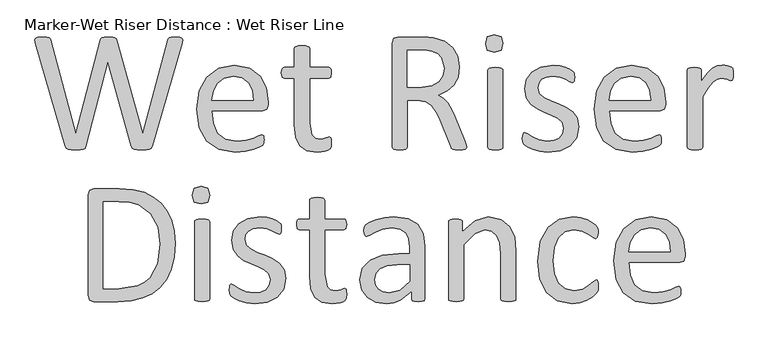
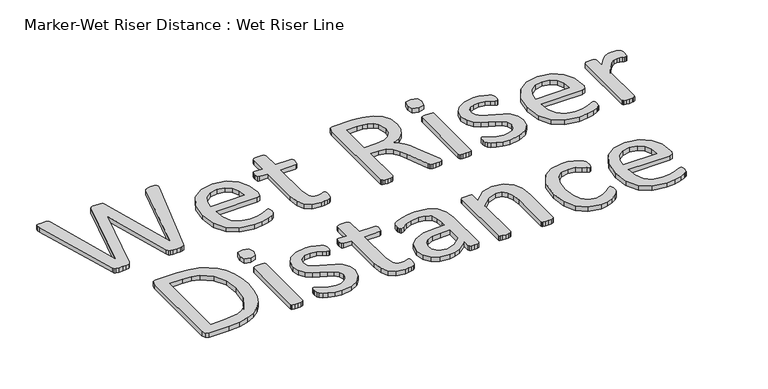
"""IFC4 building model written with IfcOpenShell, lengths in millimetres: proxy geometry, Marker-Wet Riser Distance : Wet Riser Line."""

from ifc_helpers import new_model, si_unit, origin, origin_with_axes, place, context, project, spatial, polyline, outline, extrude, source, transform, mapped, element, save


def marker_wet_riser_distance_wet_riser_line_4951238f(model_context):
    return source(origin(), model_context, "Body", "SweptSolid", [
        extrude(outline(polyline([(3438.8930913, 53.9967067), (3436.9931695, 50.5285953), (3433.6155305, 48.538201), (3428.3078122, 47.5430038), (3420.4970222, 47.2414289), (3412.3544998, 47.5430038), (3406.8658366, 48.538201), (3403.6389851, 50.5285953), (3401.9200082, 53.9967067), (3360.0614115, 204.1810088), (3321.097934, 53.9967067), (3319.559902, 50.5285953), (3316.483838, 48.538201), (3311.2967496, 47.5430038), (3303.1843847, 47.2414289), (3294.6799724, 47.5430038), (3289.1309942, 48.538201), (3285.7835128, 50.5285953), (3284.1851658, 53.9967067), (3231.2889277, 237.6558231), (3230.2937305, 243.2048013), (3231.5301876, 246.2808653), (3235.7823937, 247.6681099), (3243.6534987, 247.9696848), (3251.2531863, 247.7284248), (3255.5053924, 246.8840151), (3257.5259443, 245.1951957), (3258.370354, 242.4207065), (3303.3050147, 75.8307298), (3346.128651, 242.1191316), (3347.3047931, 244.9539357), (3349.5364474, 246.7332277), (3353.939441, 247.6681099), (3361.4486561, 247.9696848), (3368.3245639, 247.6681099), (3372.3958251, 246.7332277), (3374.6576369, 244.9539357), (3375.8036215, 242.1191316), (3421.7033218, 75.8307298), (3466.0951477, 242.3000766), (3466.9998724, 244.9539357), (3468.9299518, 246.7332277), (3473.0916854, 247.6681099), (3480.2691681, 247.9696848), (3487.6275958, 247.5776374), (3491.578227, 246.1300779), (3492.7242116, 243.0540138), (3491.9099594, 237.5351931), (3438.8930913, 53.9967067)])), origin_with_axes(), (0.0, 0.0, 1.0), 10.0),
        extrude(outline(polyline([(3645.4115854, 127.7619282), (3642.4259938, 119.2575159), (3635.5802435, 116.7242867), (3545.0474574, 116.7242867), (3547.3092692, 94.4077438), (3554.8184843, 77.3989193), (3568.5099849, 66.4819078), (3589.1377083, 62.682064), (3606.2671629, 64.4613559), (3619.2951987, 68.4723021), (3628.3122883, 72.4832483), (3633.6501641, 74.2625403), (3635.5199285, 73.7498629), (3636.8167006, 72.2419884), (3637.4801654, 69.4373418), (3637.6912678, 65.0343482), (3637.5404804, 61.8074967), (3637.148433, 59.36474), (3636.3944957, 57.4045032), (3635.0374087, 55.7458412), (3630.1217378, 52.8205646), (3619.5364586, 48.6588309), (3604.4577135, 45.0097746), (3586.1822743, 43.3812701), (3556.7184062, 48.2064686), (3535.4573755, 62.561434), (3522.4293397, 86.4763239), (3518.0263461, 119.8606657), (3522.6404421, 152.4307553), (3535.9398953, 176.9186375), (3556.9295086, 192.38943), (3584.4934548, 197.7876208), (3612.238346, 192.570375), (3631.0867774, 178.5169845), (3641.943474, 157.7987886), (3645.4115854, 132.4061817), (3645.4115854, 127.7619282)]), holes=[polyline([(3618.390474, 136.0250805), (3616.4377765, 153.7350668), (3609.7352743, 167.1777681), (3598.4488335, 175.6595622), (3582.7443204, 178.486827), (3566.670378, 174.9885581), (3555.1200592, 165.6698936), (3547.912419, 152.1291804), (3545.0474574, 136.0250805), (3618.390474, 136.0250805)])]), origin_with_axes(), (0.0, 0.0, 1.0), 10.0),
        extrude(outline(polyline([(3757.3561896, 61.1138745), (3756.7530398, 53.5745019), (3754.9134329, 49.4730832), (3751.2342191, 47.000169), (3745.6550833, 45.1002471), (3738.990278, 43.86379), (3731.9635827, 43.3812701), (3713.5976711, 46.3065467), (3701.0823126, 55.1426914), (3693.9651449, 70.1309641), (3691.7334906, 91.5729397), (3691.7334906, 174.6266682), (3673.3977364, 174.6266682), (3669.8693101, 176.88848), (3668.572538, 184.2167501), (3668.9344279, 188.7102162), (3669.8693101, 191.7561227), (3671.4073421, 193.4449422), (3673.5183664, 193.927462), (3691.7334906, 193.927462), (3691.7334906, 227.5229063), (3692.3064829, 229.5434582), (3694.4476647, 231.2021201), (3698.6093984, 232.2274748), (3705.1837313, 232.5290497), (3711.8786941, 232.2274748), (3715.9499553, 231.2021201), (3718.0911371, 229.5434582), (3718.7546019, 227.5229063), (3718.7546019, 193.927462), (3752.5309911, 193.927462), (3754.551543, 193.4449422), (3756.089575, 191.7561227), (3757.0546147, 188.7102162), (3757.3561896, 184.2167501), (3756.02926, 176.88848), (3752.5309911, 174.6266682), (3718.7546019, 174.6266682), (3718.7546019, 95.9759333), (3722.7655482, 73.9911229), (3728.367302, 68.4044478), (3737.1506711, 66.5422227), (3743.1520116, 67.235845), (3747.8264226, 68.6834045), (3751.354849, 70.1611216), (3753.9785507, 70.8849013), (3756.3911499, 69.0151369), (3757.0546147, 65.9993879), (3757.3561896, 61.1138745)])), origin_with_axes(), (0.0, 0.0, 1.0), 10.0),
        extrude(outline(polyline([(3997.9526477, 52.1269423), (3997.5002854, 50.015918), (3995.509891, 48.477886), (3991.1672124, 47.5430038), (3983.7183123, 47.2414289), (3977.1741369, 47.5430038), (3973.0727182, 48.538201), (3970.6902764, 50.4381229), (3969.2427169, 53.5141869), (3950.8466478, 99.9567221), (3944.1818424, 114.4926324), (3936.099635, 125.9223213), (3925.092151, 133.3712214), (3909.8324609, 136.0250805), (3892.4617464, 136.0250805), (3892.4617464, 52.1269423), (3891.7681242, 49.9857605), (3889.5666274, 48.538201), (3885.4652087, 47.6334763), (3878.9511908, 47.2414289), (3872.4371728, 47.6334763), (3868.2754392, 48.5683585), (3866.0739424, 50.015918), (3865.4406351, 52.1872573), (3865.4406351, 237.1733032), (3868.5468566, 245.587243), (3875.2116619, 247.9696848), (3917.0702586, 247.9696848), (3929.4348296, 247.5776374), (3938.3614468, 246.7030702), (3958.5368078, 240.3699972), (3973.2536631, 229.3323557), (3982.1501228, 214.0123506), (3985.1055568, 195.0131317), (3982.4818552, 176.9186375), (3974.8821676, 162.7747745), (3962.9699589, 152.1593379), (3947.4086939, 144.5294928), (3956.395626, 139.0709871), (3963.9048411, 131.1697246), (3970.4490165, 120.5844455), (3976.6614595, 107.0738898), (3994.5750088, 63.3455288), (3997.3494979, 55.6252112), (3997.9526477, 52.1269423)]), holes=[polyline([(3958.0844455, 192.1180126), (3952.9275146, 211.4791214), (3946.0139099, 218.2796355), (3935.5869577, 222.8786528), (3927.0222304, 224.3563698), (3914.4767144, 224.8087322), (3892.4617464, 224.8087322), (3892.4617464, 159.1860331), (3917.9749833, 159.1860331), (3935.8282176, 161.6589473), (3948.3737336, 168.5951701), (3955.7321612, 179.0598193), (3958.0844455, 192.1180126)])]), origin_with_axes(), (0.0, 0.0, 1.0), 10.0),
        extrude(outline(polyline([(4062.3087322, 236.5701534), (4058.9914082, 224.2357399), (4046.6871522, 220.9485734), (4034.684471, 224.1452674), (4031.427462, 236.2082635), (4034.744786, 248.5426771), (4047.049042, 251.8298435), (4059.0517232, 248.6331496), (4062.3087322, 236.5701534)])), origin_with_axes(), (0.0, 0.0, 1.0), 10.0),
        extrude(outline(polyline([(4062.3087322, 51.9459974), (4061.6452674, 49.8952881), (4059.5040856, 48.4477285), (4055.4328244, 47.5430038), (4048.7378615, 47.2414289), (4042.1635286, 47.5430038), (4038.0017949, 48.4477285), (4035.8606131, 49.8952881), (4035.2876208, 51.9459974), (4035.2876208, 189.2228935), (4035.8606131, 191.1831304), (4038.0017949, 192.7211624), (4042.1635286, 193.6258871), (4048.7378615, 193.927462), (4055.4328244, 193.6258871), (4059.5040856, 192.7211624), (4061.6452674, 191.1831304), (4062.3087322, 189.2228935), (4062.3087322, 51.9459974)])), origin_with_axes(), (0.0, 0.0, 1.0), 10.0),
        extrude(outline(polyline([(4197.414289, 88.4968757), (4193.4033428, 69.2865544), (4181.9736539, 55.0823764), (4164.3315221, 46.3367042), (4141.8038768, 43.3812701), (4127.3584389, 44.7685147), (4115.0843403, 48.2969411), (4105.8863057, 52.7602496), (4100.367485, 56.9521408), (4097.8342558, 61.3852919), (4097.0501611, 68.4119871), (4097.351736, 72.9657682), (4098.1358307, 75.9513597), (4099.4627603, 77.6100217), (4101.3928397, 78.122699), (4106.3989831, 75.7100998), (4114.6018205, 70.4023815), (4126.1521393, 65.0946632), (4141.4419869, 62.682064), (4153.2034081, 64.159781), (4162.3411277, 68.5326171), (4168.3123108, 75.8910447), (4170.3931776, 86.4461664), (4167.4075861, 96.4282957), (4159.4761661, 103.6359359), (4148.4083672, 109.1849141), (4135.7422212, 114.2513725), (4122.9856028, 120.2527131), (4111.8273313, 128.4555505), (4103.8959114, 140.0058693), (4100.9103198, 156.1099691), (4104.1070138, 171.9426516), (4113.6970957, 185.2119473), (4129.6805656, 194.3496669), (4152.1177385, 197.7876208), (4163.3363249, 196.7622661), (4173.4692417, 194.168722), (4181.1895592, 190.791083), (4186.0147576, 187.5943891), (4188.1860969, 185.3024198), (4188.9701917, 183.3120254), (4189.4527115, 180.5676938), (4189.6939715, 176.5567476), (4189.4527115, 172.1839115), (4188.6686168, 169.138005), (4187.3115297, 167.419028), (4185.5322378, 166.9063507), (4181.3705041, 168.7459576), (4174.3438089, 172.6965888), (4164.2108921, 176.6472201), (4150.9114389, 178.486827), (4139.0897026, 176.948795), (4130.7059203, 172.5759589), (4125.7600919, 165.880996), (4124.0712724, 157.4972137), (4127.2679664, 147.2738244), (4135.6215912, 140.0058693), (4147.352855, 134.3965761), (4160.7427807, 129.2698027), (4174.2231789, 123.3287771), (4186.0147576, 115.3671996), (4194.27791, 104.1184557), (4197.414289, 88.4968757)])), origin_with_axes(), (0.0, 0.0, 1.0), 10.0),
        extrude(outline(polyline([(4351.8206397, 127.7619282), (4348.8350481, 119.2575159), (4341.9892978, 116.7242867), (4251.4565117, 116.7242867), (4253.7183235, 94.4077438), (4261.2275386, 77.3989193), (4274.9190392, 66.4819078), (4295.5467626, 62.682064), (4312.6762172, 64.4613559), (4325.704253, 68.4723021), (4334.7213426, 72.4832483), (4340.0592184, 74.2625403), (4341.9289828, 73.7498629), (4343.2257549, 72.2419884), (4343.8892197, 69.4373418), (4344.1003221, 65.0343482), (4343.9495347, 61.8074967), (4343.5574873, 59.36474), (4342.80355, 57.4045032), (4341.446463, 55.7458412), (4336.5307921, 52.8205646), (4325.9455129, 48.6588309), (4310.8667678, 45.0097746), (4292.5913286, 43.3812701), (4263.1274605, 48.2064686), (4241.8664298, 62.561434), (4228.838394, 86.4763239), (4224.4354004, 119.8606657), (4229.0494964, 152.4307553), (4242.3489496, 176.9186375), (4263.3385629, 192.38943), (4290.9025091, 197.7876208), (4318.6474003, 192.570375), (4337.4958317, 178.5169845), (4348.3525283, 157.7987886), (4351.8206397, 132.4061817), (4351.8206397, 127.7619282)]), holes=[polyline([(4324.7995283, 136.0250805), (4322.8468308, 153.7350668), (4316.1443286, 167.1777681), (4304.8578878, 175.6595622), (4289.1533747, 178.486827), (4273.0794323, 174.9885581), (4261.5291135, 165.6698936), (4254.3214733, 152.1291804), (4251.4565117, 136.0250805), (4324.7995283, 136.0250805)])]), origin_with_axes(), (0.0, 0.0, 1.0), 10.0),
        extrude(outline(polyline([(4471.4855614, 182.3469857), (4471.334774, 176.8583225), (4470.7316242, 173.2997386), (4469.615797, 171.2791868), (4467.7460326, 170.5855645), (4464.8207561, 171.2791868), (4460.9304398, 172.6664313), (4456.0750839, 173.9933609), (4450.2546882, 174.6266682), (4442.8962606, 172.9680062), (4435.3267305, 167.539658), (4427.0334206, 157.5273712), (4417.4433387, 142.2375235), (4417.4433387, 51.9459974), (4416.7798739, 49.8952881), (4414.6386921, 48.4477285), (4410.5674309, 47.5430038), (4403.872468, 47.2414289), (4397.2981351, 47.5430038), (4393.1364015, 48.4477285), (4390.9952197, 49.8952881), (4390.4222273, 51.9459974), (4390.4222273, 189.2228935), (4390.9047472, 191.2736029), (4392.8649841, 192.7814774), (4396.6346704, 193.6862021), (4402.7264834, 193.927462), (4408.6976665, 193.6862021), (4412.3768803, 192.7814774), (4414.2768022, 191.2736029), (4414.8497945, 189.2228935), (4414.8497945, 169.1983199), (4425.2842862, 183.4929704), (4434.5426357, 192.2084851), (4443.167678, 196.5813212), (4451.8228777, 197.7876208), (4456.2258713, 197.5765184), (4461.4129597, 196.7622661), (4466.2984731, 195.4051791), (4469.3745371, 193.927462), (4470.5808367, 192.5402175), (4471.1236716, 190.8212405), (4471.4252465, 187.775334), (4471.4855614, 182.3469857)])), origin_with_axes(), (0.0, 0.0, 1.0), 10.0),
        extrude(outline(polyline([(3479.4247584, -118.9218669), (3477.7585571, -143.3343554), (3472.759953, -164.4596774), (3464.5571156, -182.2676754), (3453.2782143, -196.7281921), (3439.0137213, -207.9090816), (3421.8541093, -215.8781984), (3401.4601064, -220.6506213), (3377.492441, -222.2414289), (3334.9703796, -222.2414289), (3328.1849442, -219.8288297), (3325.0184077, -211.3847324), (3325.0184077, -32.3698696), (3328.1849442, -23.9257723), (3334.9703796, -21.513173), (3380.447875, -21.513173), (3404.4909342, -23.2019925), (3424.5079684, -28.2684509), (3441.0568913, -36.4939064), (3454.6956163, -47.6597172), (3465.4015254, -61.637714), (3473.1520004, -78.2997274), (3477.8565689, -97.4572731), (3479.4247584, -118.9218669)]), holes=[polyline([(3452.403647, -120.1281665), (3448.3323858, -90.1516211), (3435.6059249, -66.1462588), (3413.6512719, -50.3437338), (3398.4443574, -46.0915277), (3379.4225203, -44.6741256), (3352.0395191, -44.6741256), (3352.0395191, -199.0804763), (3379.7240953, -199.0804763), (3412.3846573, -194.3155928), (3424.5833622, -188.2916341), (3434.5805702, -179.749525), (3447.9403385, -155.1410128), (3452.403647, -120.1281665)])]), origin_with_axes(), (0.0, 0.0, 1.0), 10.0),
        extrude(outline(polyline([(3541.1872987, -217.5368604), (3540.5238339, -219.5875697), (3538.3826521, -221.0351293), (3534.3113909, -221.939854), (3527.616428, -222.2414289), (3521.0420951, -221.939854), (3516.8803614, -221.0351293), (3514.7391796, -219.5875697), (3514.1661873, -217.5368604), (3514.1661873, -80.2599643), (3514.7391796, -78.2997274), (3516.8803614, -76.7616954), (3521.0420951, -75.8569707), (3527.616428, -75.5553958), (3534.3113909, -75.8569707), (3538.3826521, -76.7616954), (3540.5238339, -78.2997274), (3541.1872987, -80.2599643), (3541.1872987, -217.5368604)])), origin_with_axes(), (0.0, 0.0, 1.0), 10.0),
        extrude(outline(polyline([(3541.1872987, -32.9127044), (3537.8699747, -45.2471179), (3525.5657187, -48.5342844), (3513.5630375, -45.3375904), (3510.3060285, -33.2745943), (3513.6233525, -20.9401807), (3525.9276085, -17.6530143), (3537.9302897, -20.8497082), (3541.1872987, -32.9127044)])), origin_with_axes(), (0.0, 0.0, 1.0), 10.0),
        extrude(outline(polyline([(3676.2928555, -180.9859821), (3672.2819093, -200.1963034), (3660.8522204, -214.4004814), (3643.2100886, -223.1461536), (3620.6824433, -226.1015877), (3606.2370054, -224.7143431), (3593.9629068, -221.1859167), (3584.7648722, -216.7226082), (3579.2460515, -212.530717), (3576.7128223, -208.0975659), (3575.9287276, -201.0708707), (3576.2303025, -196.5170896), (3577.0143972, -193.5314981), (3578.3413268, -191.8728361), (3580.2714062, -191.3601588), (3585.2775496, -193.772758), (3593.480387, -199.0804763), (3605.0307058, -204.3881946), (3620.3205534, -206.8007938), (3632.0819746, -205.3230768), (3641.2196942, -200.9502407), (3647.1908773, -193.5918131), (3649.2717441, -183.0366914), (3646.2861526, -173.0545621), (3638.3547326, -165.8469219), (3627.2869337, -160.2979437), (3614.6207877, -155.2314853), (3601.8641693, -149.2301447), (3590.7058978, -141.0273073), (3582.7744779, -129.4769885), (3579.7888863, -113.3728887), (3582.9855803, -97.5402062), (3592.5756622, -84.2709105), (3608.5591321, -75.1331909), (3630.996305, -71.695237), (3642.2148914, -72.7205917), (3652.3478081, -75.3141358), (3660.0681257, -78.6917748), (3664.8933241, -81.8884687), (3667.0646634, -84.180438), (3667.8487582, -86.1708324), (3668.331278, -88.915164), (3668.572538, -92.9261102), (3668.331278, -97.2989463), (3667.5471833, -100.3448528), (3666.1900962, -102.0638298), (3664.4108043, -102.5765071), (3660.2490706, -100.7369002), (3653.2223754, -96.786269), (3643.0894586, -92.8356377), (3629.7900054, -90.9960308), (3617.9682691, -92.5340628), (3609.5844868, -96.9068989), (3604.6386584, -103.6018618), (3602.9498389, -111.9856441), (3606.1465329, -122.2090334), (3614.5001577, -129.4769885), (3626.2314215, -135.0862817), (3639.6213472, -140.2130551), (3653.1017454, -146.1540807), (3664.8933241, -154.1156582), (3673.1564765, -165.3644021), (3676.2928555, -180.9859821)])), origin_with_axes(), (0.0, 0.0, 1.0), 10.0),
        extrude(outline(polyline([(3784.377301, -208.3689833), (3783.7741512, -215.9083559), (3781.9345442, -220.0097746), (3778.2553304, -222.4826888), (3772.6761947, -224.3826107), (3766.0113893, -225.6190678), (3758.9846941, -226.1015877), (3740.6187824, -223.1763111), (3728.1034239, -214.3401664), (3720.9862562, -199.3518937), (3718.7546019, -177.9099181), (3718.7546019, -94.8561896), (3700.4188478, -94.8561896), (3696.8904214, -92.5943778), (3695.5936493, -85.2661077), (3695.9555392, -80.7726416), (3696.8904214, -77.7267351), (3698.4284534, -76.0379156), (3700.5394778, -75.5553958), (3718.7546019, -75.5553958), (3718.7546019, -41.9599515), (3719.3275942, -39.9393996), (3721.4687761, -38.2807377), (3725.6305097, -37.255383), (3732.2048426, -36.9538081), (3738.8998055, -37.255383), (3742.9710667, -38.2807377), (3745.1122485, -39.9393996), (3745.7757133, -41.9599515), (3745.7757133, -75.5553958), (3779.5521025, -75.5553958), (3781.5726544, -76.0379156), (3783.1106864, -77.7267351), (3784.0757261, -80.7726416), (3784.377301, -85.2661077), (3783.0503714, -92.5943778), (3779.5521025, -94.8561896), (3745.7757133, -94.8561896), (3745.7757133, -173.5069245), (3749.7866595, -195.4917349), (3755.3884134, -201.07841), (3764.1717824, -202.9406351), (3770.173123, -202.2470128), (3774.847534, -200.7994533), (3778.3759604, -199.3217362), (3780.999662, -198.5979565), (3783.4122613, -200.4677209), (3784.0757261, -203.4834699), (3784.377301, -208.3689833)])), origin_with_axes(), (0.0, 0.0, 1.0), 10.0),
        extrude(outline(polyline([(3923.3430166, -217.5971754), (3922.016087, -220.401822), (3918.3971881, -221.7890665), (3911.6419103, -222.2414289), (3904.79616, -221.7890665), (3901.0867887, -220.401822), (3899.940804, -217.5971754), (3899.940804, -203.7247298), (3879.6146555, -219.7685147), (3868.0643367, -224.5183194), (3855.8505531, -226.1015877), (3835.916452, -223.2366261), (3820.7472343, -214.9433162), (3811.006365, -201.6137055), (3807.5382536, -183.6398412), (3812.3332945, -163.1930628), (3826.0851101, -148.7777824), (3848.0096056, -140.1828976), (3877.2020563, -137.317936), (3896.3219052, -137.317936), (3896.3219052, -125.7977747), (3894.6330857, -110.7190295), (3889.2047375, -99.802018), (3879.5241831, -93.2276851), (3864.8978002, -90.9960308), (3848.1603931, -93.4086301), (3835.1926722, -98.7163484), (3825.8740077, -104.0240667), (3820.3250295, -106.4366659), (3818.1536902, -105.8033586), (3816.5553432, -103.8732792), (3815.560146, -100.5559553), (3815.2585711, -96.1228042), (3815.8014059, -89.7897312), (3818.4552651, -85.3565801), (3825.6930628, -80.8329566), (3837.514799, -76.369648), (3852.1411818, -73.0221666), (3868.1548092, -71.695237), (3893.788676, -75.1030334), (3910.887973, -85.0550052), (3920.3875825, -101.3098925), (3923.3430166, -123.9883253), (3923.3430166, -217.5971754)]), holes=[polyline([(3896.3219052, -156.6187299), (3874.8497721, -156.6187299), (3856.9362228, -158.3980218), (3844.3002343, -163.6454251), (3836.9116492, -171.9688925), (3834.5593649, -183.1573214), (3836.2481844, -192.8981908), (3841.3146428, -200.4074059), (3849.4270077, -205.2024468), (3860.2535467, -206.8007938), (3878.5893009, -201.704178), (3896.3219052, -186.1127554), (3896.3219052, -156.6187299)])]), origin_with_axes(), (0.0, 0.0, 1.0), 10.0),
        extrude(outline(polyline([(4085.4696848, -217.4765454), (4084.80622, -219.5272548), (4082.6650382, -221.0049718), (4078.593777, -221.939854), (4072.0194441, -222.2414289), (4065.3244812, -221.939854), (4061.25322, -221.0351293), (4059.1120382, -219.5875697), (4058.4485734, -217.4765454), (4058.4485734, -136.8957312), (4056.6692815, -117.9568272), (4051.5123506, -105.5620987), (4042.7365209, -97.6005212), (4030.2814774, -94.8561896), (4011.9758807, -101.58131), (3992.8258744, -121.3344661), (3992.8258744, -217.4765454), (3992.1624096, -219.5875697), (3990.0212278, -221.0351293), (3985.9499666, -221.939854), (3979.2550037, -222.2414289), (3972.6806708, -221.939854), (3968.5189371, -221.0351293), (3966.3777553, -219.5875697), (3965.804763, -217.5368604), (3965.804763, -80.2599643), (3966.2872828, -78.2092549), (3968.2475197, -76.7013804), (3972.017206, -75.7966557), (3978.1090191, -75.5553958), (3984.0802022, -75.7966557), (3987.759416, -76.7013804), (3989.6593379, -78.2092549), (3990.2323302, -80.2599643), (3990.2323302, -98.4147735), (4013.3028103, -78.1187824), (4036.4939204, -71.695237), (4059.5342431, -76.3998055), (4074.6733032, -88.975479), (4082.9666131, -107.4017056), (4085.4696848, -132.7943125), (4085.4696848, -217.4765454)])), origin_with_axes(), (0.0, 0.0, 1.0), 10.0),
        extrude(outline(polyline([(4232.1557179, -194.4965378), (4232.0049304, -198.7185864), (4231.4620956, -201.7343355), (4230.5573709, -204.1770922), (4228.1447717, -207.795991), (4221.6609113, -213.6767016), (4211.377207, -219.9193021), (4198.9824785, -224.3826107), (4185.1100329, -226.1015877), (4158.9333313, -221.0954443), (4139.8436399, -206.4690614), (4128.1123761, -182.885904), (4124.0712724, -150.6475468), (4129.0171009, -114.9109207), (4142.557814, -90.453196), (4162.7934901, -76.309333), (4188.005152, -71.695237), (4200.7316129, -73.0523241), (4212.0708293, -76.6109079), (4221.2990214, -81.6773663), (4227.1495745, -86.5930372), (4229.6526462, -89.8198887), (4230.7986308, -92.3832754), (4231.4017806, -95.5498119), (4231.5525681, -99.982963), (4230.195481, -108.0048554), (4226.9083146, -110.2968247), (4221.6910687, -107.8842254), (4214.2421686, -102.5765071), (4203.2949996, -97.2687888), (4188.1860969, -94.8561896), (4172.3157176, -98.3544585), (4160.6523082, -108.8492651), (4153.4823649, -126.0088771), (4151.0923838, -149.5015621), (4153.565298, -172.8434597), (4160.8634107, -189.6110243), (4172.7153044, -199.6534686), (4188.7892468, -202.9406351), (4203.8378344, -199.8947285), (4215.0564209, -193.1997657), (4223.0481558, -186.5952753), (4228.1146142, -183.6398412), (4229.8939061, -184.2128336), (4231.1906782, -186.1429129), (4231.9446155, -189.5808668), (4232.1557179, -194.4965378)])), origin_with_axes(), (0.0, 0.0, 1.0), 10.0),
        extrude(outline(polyline([(4386.5620686, -141.7209296), (4383.576477, -150.2253419), (4376.7307267, -152.7585711), (4286.1979406, -152.7585711), (4288.4597524, -175.075114), (4295.9689675, -192.0839385), (4309.6604681, -203.00095), (4330.2881915, -206.8007938), (4347.4176461, -205.0215019), (4360.4456819, -201.0105557), (4369.4627715, -196.9996095), (4374.8006473, -195.2203175), (4376.6704117, -195.7329949), (4377.9671838, -197.2408694), (4378.6306486, -200.045516), (4378.841751, -204.4485096), (4378.6909636, -207.6753611), (4378.2989162, -210.1181178), (4377.5449789, -212.0783546), (4376.1878919, -213.7370166), (4371.272221, -216.6622932), (4360.6869418, -220.8240269), (4345.6081967, -224.4730832), (4327.3327575, -226.1015877), (4297.8688894, -221.2763892), (4276.6078587, -206.9214238), (4263.5798229, -183.0065339), (4259.1768293, -149.6221921), (4263.7909253, -117.0521025), (4277.0903785, -92.5642203), (4298.0799918, -77.0934278), (4325.643938, -71.695237), (4353.3888292, -76.9124828), (4372.2372606, -90.9658733), (4383.0939572, -111.6840692), (4386.5620686, -137.0766761), (4386.5620686, -141.7209296)]), holes=[polyline([(4359.5409572, -133.4577773), (4357.5882597, -115.747791), (4350.8857575, -102.3050897), (4339.5993167, -93.8232956), (4323.8948036, -90.9960308), (4307.8208612, -94.4942997), (4296.2705424, -103.8129642), (4289.0629022, -117.3536774), (4286.1979406, -133.4577773), (4359.5409572, -133.4577773)])]), origin_with_axes(), (0.0, 0.0, 1.0), 10.0),
    ])


if __name__ == "__main__":
    model = new_model("IFC4")
    model_context = context("Model", 3, world=origin())
    ifc_project = project(units=[si_unit("LENGTHUNIT", "METRE", prefix="MILLI")], contexts=[model_context])
    site = spatial("IfcSite", under=ifc_project)
    building = spatial("IfcBuilding", under=site)
    placement = place(None, origin())
    marker_wet_riser_distance_wet_riser_line_shape = marker_wet_riser_distance_wet_riser_line_4951238f(model_context)
    element("IfcBuildingElementProxy", 1, Name="Marker-Wet Riser Distance : Wet Riser Line", ObjectType="Marker-Wet Riser Distance : Wet Riser Line", at=placement, inside=building, context=model_context, shape_type="MappedRepresentation", body=[
        mapped(marker_wet_riser_distance_wet_riser_line_shape, transform((0.0, 0.0, 0.0), x_axis=(1.0, 0.0, 0.0), y_axis=(0.0, 1.0, 0.0), z_axis=(0.0, 0.0, 1.0))),
    ])
    save(model, "model.ifc")
